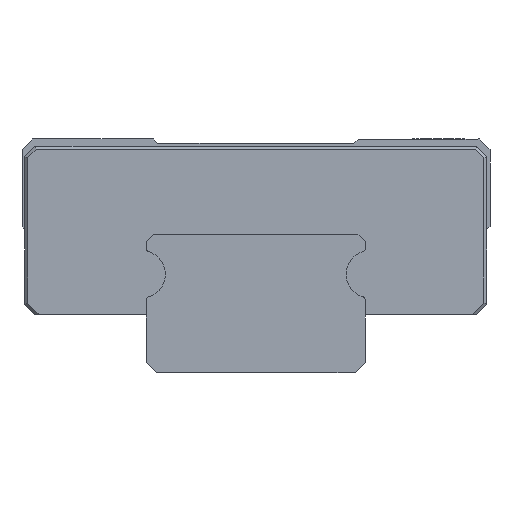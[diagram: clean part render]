
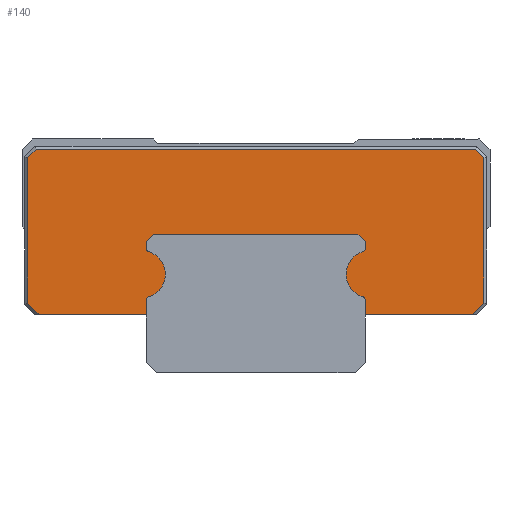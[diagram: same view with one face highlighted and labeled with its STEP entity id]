
A CAD part, front view. The second image highlights one B-rep face of the part: STEP entity #140.
In plain terms, the highlighted planar face has unit normal (0, -1, 0).
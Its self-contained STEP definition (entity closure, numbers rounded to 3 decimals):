
#140 = ADVANCED_FACE( '', ( #274 ), #275, .F. );
#274 = FACE_OUTER_BOUND( '', #522, .T. );
#275 = PLANE( '', #523 );
#522 = EDGE_LOOP( '', ( #865, #866, #867, #868, #869, #870, #871, #872, #873, #874, #875, #876, #877, #878, #879, #880, #881, #882, #883, #884, #885, #886 ) );
#523 = AXIS2_PLACEMENT_3D( '', #887, #888, #889 );
#865 = ORIENTED_EDGE( '', *, *, #1741, .T. );
#866 = ORIENTED_EDGE( '', *, *, #1742, .T. );
#867 = ORIENTED_EDGE( '', *, *, #1743, .T. );
#868 = ORIENTED_EDGE( '', *, *, #1744, .T. );
#869 = ORIENTED_EDGE( '', *, *, #1745, .T. );
#870 = ORIENTED_EDGE( '', *, *, #1746, .T. );
#871 = ORIENTED_EDGE( '', *, *, #1747, .T. );
#872 = ORIENTED_EDGE( '', *, *, #1748, .T. );
#873 = ORIENTED_EDGE( '', *, *, #1716, .T. );
#874 = ORIENTED_EDGE( '', *, *, #1749, .T. );
#875 = ORIENTED_EDGE( '', *, *, #1750, .T. );
#876 = ORIENTED_EDGE( '', *, *, #1751, .T. );
#877 = ORIENTED_EDGE( '', *, *, #1752, .T. );
#878 = ORIENTED_EDGE( '', *, *, #1753, .T. );
#879 = ORIENTED_EDGE( '', *, *, #1754, .T. );
#880 = ORIENTED_EDGE( '', *, *, #1755, .T. );
#881 = ORIENTED_EDGE( '', *, *, #1756, .T. );
#882 = ORIENTED_EDGE( '', *, *, #1757, .T. );
#883 = ORIENTED_EDGE( '', *, *, #1758, .T. );
#884 = ORIENTED_EDGE( '', *, *, #1759, .T. );
#885 = ORIENTED_EDGE( '', *, *, #1760, .T. );
#886 = ORIENTED_EDGE( '', *, *, #1761, .T. );
#887 = CARTESIAN_POINT( '', ( -4632.217, -615.517, -11.1 ) );
#888 = DIRECTION( '', ( 0., 1., 0. ) );
#889 = DIRECTION( '', ( 1., 0., 0. ) );
#1716 = EDGE_CURVE( '', #2045, #2043, #2046, .T. );
#1741 = EDGE_CURVE( '', #2091, #2092, #2093, .T. );
#1742 = EDGE_CURVE( '', #2092, #2094, #2095, .T. );
#1743 = EDGE_CURVE( '', #2094, #2096, #2097, .T. );
#1744 = EDGE_CURVE( '', #2096, #2098, #2099, .T. );
#1745 = EDGE_CURVE( '', #2098, #2100, #2101, .T. );
#1746 = EDGE_CURVE( '', #2100, #2102, #2103, .T. );
#1747 = EDGE_CURVE( '', #2102, #2104, #2105, .T. );
#1748 = EDGE_CURVE( '', #2104, #2045, #2106, .T. );
#1749 = EDGE_CURVE( '', #2043, #2107, #2108, .T. );
#1750 = EDGE_CURVE( '', #2107, #2109, #2110, .T. );
#1751 = EDGE_CURVE( '', #2109, #2111, #2112, .T. );
#1752 = EDGE_CURVE( '', #2111, #2113, #2114, .T. );
#1753 = EDGE_CURVE( '', #2113, #2115, #2116, .T. );
#1754 = EDGE_CURVE( '', #2115, #2117, #2118, .T. );
#1755 = EDGE_CURVE( '', #2117, #2119, #2120, .T. );
#1756 = EDGE_CURVE( '', #2119, #2121, #2122, .T. );
#1757 = EDGE_CURVE( '', #2121, #2123, #2124, .T. );
#1758 = EDGE_CURVE( '', #2123, #2125, #2126, .T. );
#1759 = EDGE_CURVE( '', #2125, #2127, #2128, .T. );
#1760 = EDGE_CURVE( '', #2127, #2129, #2130, .T. );
#1761 = EDGE_CURVE( '', #2129, #2091, #2131, .T. );
#2043 = VERTEX_POINT( '', #2558 );
#2045 = VERTEX_POINT( '', #2561 );
#2046 = LINE( '', #2562, #2563 );
#2091 = VERTEX_POINT( '', #2632 );
#2092 = VERTEX_POINT( '', #2633 );
#2093 = LINE( '', #2634, #2635 );
#2094 = VERTEX_POINT( '', #2636 );
#2095 = LINE( '', #2637, #2638 );
#2096 = VERTEX_POINT( '', #2639 );
#2097 = LINE( '', #2640, #2641 );
#2098 = VERTEX_POINT( '', #2642 );
#2099 = LINE( '', #2643, #2644 );
#2100 = VERTEX_POINT( '', #2645 );
#2101 = LINE( '', #2646, #2647 );
#2102 = VERTEX_POINT( '', #2648 );
#2103 = LINE( '', #2649, #2650 );
#2104 = VERTEX_POINT( '', #2651 );
#2105 = LINE( '', #2652, #2653 );
#2106 = LINE( '', #2654, #2655 );
#2107 = VERTEX_POINT( '', #2656 );
#2108 = LINE( '', #2657, #2658 );
#2109 = VERTEX_POINT( '', #2659 );
#2110 = CIRCLE( '', #2660, 0.3 );
#2111 = VERTEX_POINT( '', #2661 );
#2112 = CIRCLE( '', #2662, 1.613 );
#2113 = VERTEX_POINT( '', #2663 );
#2114 = CIRCLE( '', #2664, 0.3 );
#2115 = VERTEX_POINT( '', #2665 );
#2116 = LINE( '', #2666, #2667 );
#2117 = VERTEX_POINT( '', #2668 );
#2118 = LINE( '', #2669, #2670 );
#2119 = VERTEX_POINT( '', #2671 );
#2120 = LINE( '', #2672, #2673 );
#2121 = VERTEX_POINT( '', #2674 );
#2122 = LINE( '', #2675, #2676 );
#2123 = VERTEX_POINT( '', #2677 );
#2124 = LINE( '', #2678, #2679 );
#2125 = VERTEX_POINT( '', #2680 );
#2126 = CIRCLE( '', #2681, 0.3 );
#2127 = VERTEX_POINT( '', #2682 );
#2128 = CIRCLE( '', #2683, 1.613 );
#2129 = VERTEX_POINT( '', #2684 );
#2130 = CIRCLE( '', #2685, 0.3 );
#2131 = LINE( '', #2686, #2687 );
#2558 = CARTESIAN_POINT( '', ( -4639.704, -615.517, 4. ) );
#2561 = CARTESIAN_POINT( '', ( -4647.034, -615.517, 4. ) );
#2562 = CARTESIAN_POINT( '', ( -4647.317, -615.517, 4. ) );
#2563 = VECTOR( '', #3224, 1. );
#2632 = CARTESIAN_POINT( '', ( -4624.729, -615.517, 4. ) );
#2633 = CARTESIAN_POINT( '', ( -4617.4, -615.517, 4. ) );
#2634 = CARTESIAN_POINT( '', ( -4647.317, -615.517, 4. ) );
#2635 = VECTOR( '', #3249, 1. );
#2636 = CARTESIAN_POINT( '', ( -4616.617, -615.517, 4.783 ) );
#2637 = CARTESIAN_POINT( '', ( -4632.358, -615.517, -10.959 ) );
#2638 = VECTOR( '', #3250, 1. );
#2639 = CARTESIAN_POINT( '', ( -4616.617, -615.517, 14.717 ) );
#2640 = CARTESIAN_POINT( '', ( -4616.617, -615.517, -11.1 ) );
#2641 = VECTOR( '', #3251, 1. );
#2642 = CARTESIAN_POINT( '', ( -4617.2, -615.517, 15.3 ) );
#2643 = CARTESIAN_POINT( '', ( -4611.508, -615.517, 9.609 ) );
#2644 = VECTOR( '', #3252, 1. );
#2645 = CARTESIAN_POINT( '', ( -4647.234, -615.517, 15.3 ) );
#2646 = CARTESIAN_POINT( '', ( -4632.217, -615.517, 15.3 ) );
#2647 = VECTOR( '', #3253, 1. );
#2648 = CARTESIAN_POINT( '', ( -4647.817, -615.517, 14.717 ) );
#2649 = CARTESIAN_POINT( '', ( -4652.925, -615.517, 9.609 ) );
#2650 = VECTOR( '', #3254, 1. );
#2651 = CARTESIAN_POINT( '', ( -4647.817, -615.517, 4.783 ) );
#2652 = CARTESIAN_POINT( '', ( -4647.817, -615.517, -11.1 ) );
#2653 = VECTOR( '', #3255, 1. );
#2654 = CARTESIAN_POINT( '', ( -4632.075, -615.517, -10.959 ) );
#2655 = VECTOR( '', #3256, 1. );
#2656 = CARTESIAN_POINT( '', ( -4639.704, -615.517, 4.937 ) );
#2657 = CARTESIAN_POINT( '', ( -4639.704, -615.517, -11.1 ) );
#2658 = VECTOR( '', #3257, 1. );
#2659 = CARTESIAN_POINT( '', ( -4639.5, -615.517, 5.222 ) );
#2660 = AXIS2_PLACEMENT_3D( '', #3258, #3259, #3260 );
#2661 = CARTESIAN_POINT( '', ( -4639.5, -615.517, 8.278 ) );
#2662 = AXIS2_PLACEMENT_3D( '', #3261, #3262, #3263 );
#2663 = CARTESIAN_POINT( '', ( -4639.704, -615.517, 8.563 ) );
#2664 = AXIS2_PLACEMENT_3D( '', #3264, #3265, #3266 );
#2665 = CARTESIAN_POINT( '', ( -4639.704, -615.517, 9. ) );
#2666 = CARTESIAN_POINT( '', ( -4639.704, -615.517, -11.1 ) );
#2667 = VECTOR( '', #3267, 1. );
#2668 = CARTESIAN_POINT( '', ( -4639.204, -615.517, 9.5 ) );
#2669 = CARTESIAN_POINT( '', ( -4646.01, -615.517, 2.694 ) );
#2670 = VECTOR( '', #3268, 1. );
#2671 = CARTESIAN_POINT( '', ( -4625.229, -615.517, 9.5 ) );
#2672 = CARTESIAN_POINT( '', ( -4632.217, -615.517, 9.5 ) );
#2673 = VECTOR( '', #3269, 1. );
#2674 = CARTESIAN_POINT( '', ( -4624.729, -615.517, 9. ) );
#2675 = CARTESIAN_POINT( '', ( -4618.423, -615.517, 2.694 ) );
#2676 = VECTOR( '', #3270, 1. );
#2677 = CARTESIAN_POINT( '', ( -4624.729, -615.517, 8.563 ) );
#2678 = CARTESIAN_POINT( '', ( -4624.729, -615.517, -11.1 ) );
#2679 = VECTOR( '', #3271, 1. );
#2680 = CARTESIAN_POINT( '', ( -4624.933, -615.517, 8.278 ) );
#2681 = AXIS2_PLACEMENT_3D( '', #3272, #3273, #3274 );
#2682 = CARTESIAN_POINT( '', ( -4624.933, -615.517, 5.222 ) );
#2683 = AXIS2_PLACEMENT_3D( '', #3275, #3276, #3277 );
#2684 = CARTESIAN_POINT( '', ( -4624.729, -615.517, 4.937 ) );
#2685 = AXIS2_PLACEMENT_3D( '', #3278, #3279, #3280 );
#2686 = CARTESIAN_POINT( '', ( -4624.729, -615.517, -11.1 ) );
#2687 = VECTOR( '', #3281, 1. );
#3224 = DIRECTION( '', ( 1., 0., 0. ) );
#3249 = DIRECTION( '', ( 1., 0., 0. ) );
#3250 = DIRECTION( '', ( 0.707, 0., 0.707 ) );
#3251 = DIRECTION( '', ( 0., 0., 1. ) );
#3252 = DIRECTION( '', ( -0.707, 0., 0.707 ) );
#3253 = DIRECTION( '', ( -1., 0., 0. ) );
#3254 = DIRECTION( '', ( -0.707, 0., -0.707 ) );
#3255 = DIRECTION( '', ( 0., 0., -1. ) );
#3256 = DIRECTION( '', ( 0.707, 0., -0.707 ) );
#3257 = DIRECTION( '', ( 0., 0., 1. ) );
#3258 = CARTESIAN_POINT( '', ( -4639.404, -615.517, 4.937 ) );
#3259 = DIRECTION( '', ( 0., 1., 0. ) );
#3260 = DIRECTION( '', ( 0., 0., 1. ) );
#3261 = CARTESIAN_POINT( '', ( -4640.017, -615.517, 6.75 ) );
#3262 = DIRECTION( '', ( 0., -1., 0. ) );
#3263 = DIRECTION( '', ( 0., 0., 1. ) );
#3264 = CARTESIAN_POINT( '', ( -4639.404, -615.517, 8.563 ) );
#3265 = DIRECTION( '', ( 0., 1., 0. ) );
#3266 = DIRECTION( '', ( 0., 0., 1. ) );
#3267 = DIRECTION( '', ( 0., 0., 1. ) );
#3268 = DIRECTION( '', ( 0.707, 0., 0.707 ) );
#3269 = DIRECTION( '', ( 1., 0., 0. ) );
#3270 = DIRECTION( '', ( 0.707, 0., -0.707 ) );
#3271 = DIRECTION( '', ( 0., 0., -1. ) );
#3272 = CARTESIAN_POINT( '', ( -4625.029, -615.517, 8.563 ) );
#3273 = DIRECTION( '', ( 0., 1., 0. ) );
#3274 = DIRECTION( '', ( 0., 0., 1. ) );
#3275 = CARTESIAN_POINT( '', ( -4624.417, -615.517, 6.75 ) );
#3276 = DIRECTION( '', ( 0., -1., 0. ) );
#3277 = DIRECTION( '', ( 0., 0., 1. ) );
#3278 = CARTESIAN_POINT( '', ( -4625.029, -615.517, 4.937 ) );
#3279 = DIRECTION( '', ( 0., 1., 0. ) );
#3280 = DIRECTION( '', ( 0., 0., 1. ) );
#3281 = DIRECTION( '', ( 0., 0., -1. ) );
